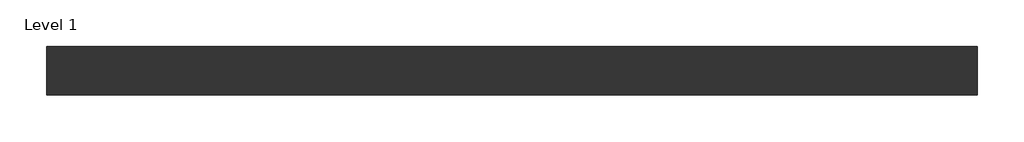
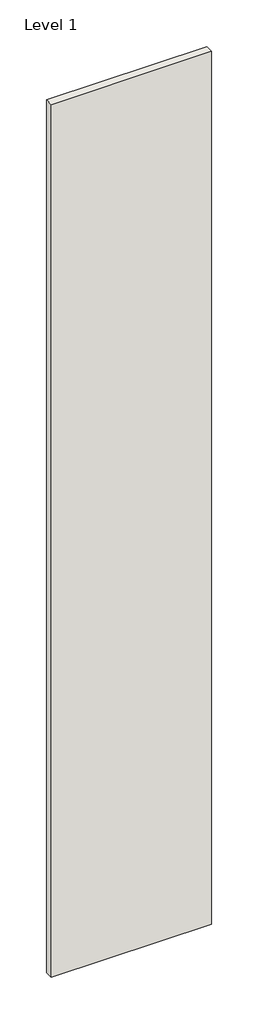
# One storey: 1 wall.
"""IFC4 building model written with IfcOpenShell, lengths in millimetres."""

from ifc_helpers import new_model, si_unit, origin, origin_with_axes, place, context, project, spatial, polyline, outline, extrude, element, save

model = new_model("IFC4")

# Units and contexts
model_context = context("Model", 3, world=origin())
ifc_project = project(units=[si_unit("LENGTHUNIT", "METRE", prefix="MILLI")], contexts=[model_context])

# Site, building, storey
site = spatial("IfcSite", under=ifc_project)
building = spatial("IfcBuilding", under=site)
storey = spatial("IfcBuildingStorey", under=building, Name="Level 1", Elevation=0.0)

# Wall
placement = place(None, origin())
element("IfcWall", 1, ObjectType="Trasdosado Placo® 63(48) BA15 + 48LM c/400", at=placement, inside=storey, context=model_context, shape_type="SweptSolid", body=[
    extrude(outline(polyline([(-27296.4711674, -81489.8970389), (-28496.4711674, -81489.8970389), (-28496.4711674, -81426.8970389), (-27296.4711674, -81426.8970389), (-27296.4711674, -81489.8970389)])), origin_with_axes(), (0.0, 0.0, 1.0), 6900.0),
])

save(model, "model.ifc")
